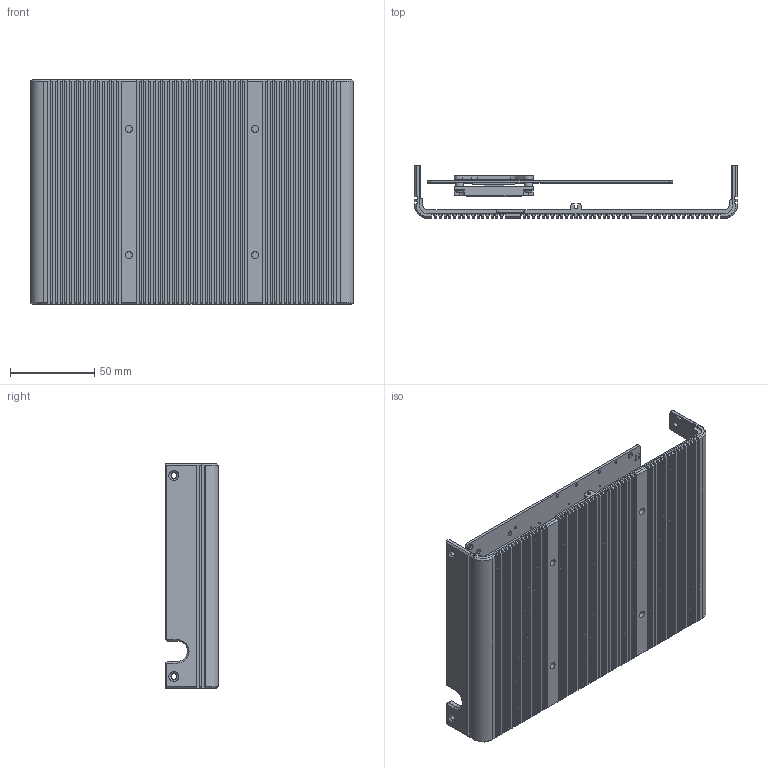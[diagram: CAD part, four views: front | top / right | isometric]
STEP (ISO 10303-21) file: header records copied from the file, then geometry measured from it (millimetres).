
FILE_DESCRIPTION((''),'2;1');
FILE_NAME('ECM-APL2_00_ASM','2019-11-19T09:35:39',('jamie_liao'),(''),'CREO PARAMETRIC BY PTC INC, 2017110','CREO PARAMETRIC BY PTC INC, 2017110','');
FILE_SCHEMA(('CONFIG_CONTROL_DESIGN','GEOMETRIC_VALIDATION_PROPERTIES_MIM'));
Length unit declared in the file: millimetre
Products named in the file (7): 00; THERMAL_PAD; THERAMAL_PAD_0_5T; E1933010810R_SCREW_2; E195BKECMBYT00R_1; ECM-APL2_0002_ASM; ECM-APL2_00_ASM
Assembly tree (9 placements, depth 3):
  ECM-APL2_00_ASM
    ECM-APL2_0002_ASM
      00
      THERMAL_PAD
      THERAMAL_PAD_0_5T
      E1933010810R_SCREW_2  x4
      E195BKECMBYT00R_1
Bounding box: 192 x 31.5 x 133.5 mm (x, y, z)
Volume: 14172.6 mm3; surface area: 140051.6 mm2
Topology: 8 solids, 11 shells, 813 faces, 2341 edges, 1565 vertices
Faces by surface type: plane 585, cylinder 189, cone 23, torus 16
Entity records: 29937 total; most frequent: CARTESIAN_POINT 4314, ORIENTED_EDGE 4118, DIRECTION 3887, EDGE_CURVE 2059, PRESENTATION_STYLE_ASSIGNMENT 1946, STYLED_ITEM 1946, CURVE_STYLE 1941, VECTOR 1655
